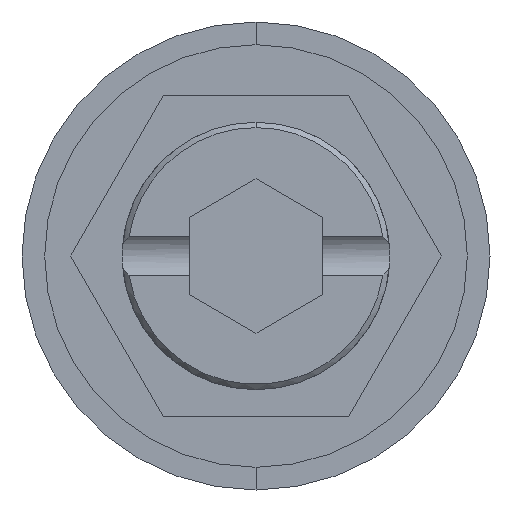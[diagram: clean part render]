
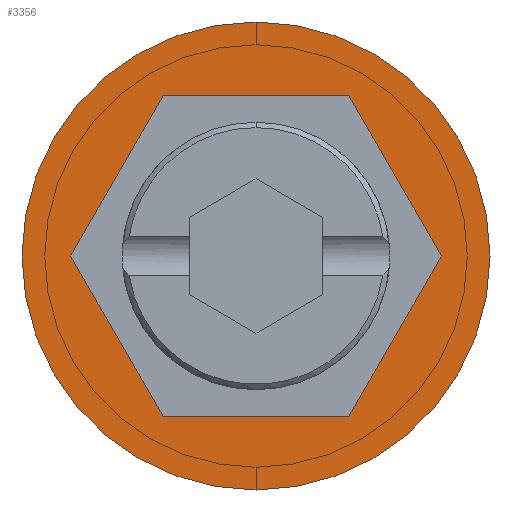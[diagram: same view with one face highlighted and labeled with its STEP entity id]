
A CAD part, front view. The second image highlights one B-rep face of the part: STEP entity #3356.
In plain terms, the highlighted planar face has unit normal (0, -1, 0).
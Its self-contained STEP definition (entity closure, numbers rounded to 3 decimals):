
#35 = DIRECTION ( 'NONE',  ( 0., 0., -1. ) ) ;
#142 = EDGE_CURVE ( 'NONE', #1620, #3146, #1400, .T. ) ;
#198 = LINE ( 'NONE', #4616, #1505 ) ;
#316 = VECTOR ( 'NONE', #2369, 1000. ) ;
#370 = CARTESIAN_POINT ( 'NONE',  ( -3.464, 0., -6. ) ) ;
#382 = DIRECTION ( 'NONE',  ( -0.5, 0., 0.866 ) ) ;
#622 = FACE_OUTER_BOUND ( 'NONE', #2159, .T. ) ;
#697 = LINE ( 'NONE', #1220, #1821 ) ;
#786 = ORIENTED_EDGE ( 'NONE', *, *, #1713, .F. ) ;
#827 = VECTOR ( 'NONE', #2898, 1000. ) ;
#883 = PLANE ( 'NONE',  #2587 ) ;
#970 = CARTESIAN_POINT ( 'NONE',  ( 0., 0., 8.75 ) ) ;
#1113 = CARTESIAN_POINT ( 'NONE',  ( 3.464, 0., -6. ) ) ;
#1123 = ORIENTED_EDGE ( 'NONE', *, *, #4736, .T. ) ;
#1175 = CARTESIAN_POINT ( 'NONE',  ( -6.928, 0., 0. ) ) ;
#1194 = AXIS2_PLACEMENT_3D ( 'NONE', #4945, #2578, #35 ) ;
#1220 = CARTESIAN_POINT ( 'NONE',  ( -6.928, 0., 0. ) ) ;
#1254 = ORIENTED_EDGE ( 'NONE', *, *, #142, .F. ) ;
#1338 = DIRECTION ( 'NONE',  ( 0., -1., 0. ) ) ;
#1339 = ORIENTED_EDGE ( 'NONE', *, *, #3307, .T. ) ;
#1400 = LINE ( 'NONE', #1425, #316 ) ;
#1425 = CARTESIAN_POINT ( 'NONE',  ( 3.464, 0., 6. ) ) ;
#1450 = AXIS2_PLACEMENT_3D ( 'NONE', #1835, #4649, #2261 ) ;
#1505 = VECTOR ( 'NONE', #2226, 1000. ) ;
#1617 = ORIENTED_EDGE ( 'NONE', *, *, #4601, .F. ) ;
#1620 = VERTEX_POINT ( 'NONE', #3696 ) ;
#1678 = EDGE_CURVE ( 'NONE', #3952, #4049, #697, .T. ) ;
#1713 = EDGE_CURVE ( 'NONE', #4049, #3805, #2800, .T. ) ;
#1821 = VECTOR ( 'NONE', #3713, 1000. ) ;
#1835 = CARTESIAN_POINT ( 'NONE',  ( 0., 0., 0. ) ) ;
#1866 = CARTESIAN_POINT ( 'NONE',  ( -3.464, 0., 6. ) ) ;
#1868 = CIRCLE ( 'NONE', #1194, 8.75 ) ;
#1914 = ORIENTED_EDGE ( 'NONE', *, *, #2996, .F. ) ;
#1975 = EDGE_LOOP ( 'NONE', ( #786, #3010, #5184, #1254, #1914, #1617 ) ) ;
#2159 = EDGE_LOOP ( 'NONE', ( #1123, #1339 ) ) ;
#2226 = DIRECTION ( 'NONE',  ( 0.5, 0., 0.866 ) ) ;
#2240 = VERTEX_POINT ( 'NONE', #3068 ) ;
#2261 = DIRECTION ( 'NONE',  ( 0., 0., -1. ) ) ;
#2369 = DIRECTION ( 'NONE',  ( -1., 0., 0. ) ) ;
#2578 = DIRECTION ( 'NONE',  ( 0., -1., 0. ) ) ;
#2587 = AXIS2_PLACEMENT_3D ( 'NONE', #3814, #1338, #4185 ) ;
#2663 = LINE ( 'NONE', #2908, #4519 ) ;
#2800 = LINE ( 'NONE', #370, #827 ) ;
#2898 = DIRECTION ( 'NONE',  ( 1., 0., 0. ) ) ;
#2908 = CARTESIAN_POINT ( 'NONE',  ( 6.928, 0., 0. ) ) ;
#2920 = VECTOR ( 'NONE', #4684, 1000. ) ;
#2944 = CARTESIAN_POINT ( 'NONE',  ( -3.464, 0., 6. ) ) ;
#2996 = EDGE_CURVE ( 'NONE', #3527, #1620, #2663, .T. ) ;
#3010 = ORIENTED_EDGE ( 'NONE', *, *, #1678, .F. ) ;
#3045 = LINE ( 'NONE', #1866, #2920 ) ;
#3068 = CARTESIAN_POINT ( 'NONE',  ( 0., 0., -8.75 ) ) ;
#3103 = FACE_BOUND ( 'NONE', #1975, .T. ) ;
#3146 = VERTEX_POINT ( 'NONE', #2944 ) ;
#3296 = CIRCLE ( 'NONE', #1450, 8.75 ) ;
#3307 = EDGE_CURVE ( 'NONE', #4665, #2240, #1868, .T. ) ;
#3356 = ADVANCED_FACE ( 'NONE', ( #3103, #622 ), #883, .T. ) ;
#3527 = VERTEX_POINT ( 'NONE', #3539 ) ;
#3539 = CARTESIAN_POINT ( 'NONE',  ( 6.928, 0., 0. ) ) ;
#3696 = CARTESIAN_POINT ( 'NONE',  ( 3.464, 0., 6. ) ) ;
#3713 = DIRECTION ( 'NONE',  ( 0.5, 0., -0.866 ) ) ;
#3805 = VERTEX_POINT ( 'NONE', #1113 ) ;
#3814 = CARTESIAN_POINT ( 'NONE',  ( 0., 0., 0. ) ) ;
#3952 = VERTEX_POINT ( 'NONE', #1175 ) ;
#4049 = VERTEX_POINT ( 'NONE', #4809 ) ;
#4185 = DIRECTION ( 'NONE',  ( 0., 0., -1. ) ) ;
#4519 = VECTOR ( 'NONE', #382, 1000. ) ;
#4601 = EDGE_CURVE ( 'NONE', #3805, #3527, #198, .T. ) ;
#4616 = CARTESIAN_POINT ( 'NONE',  ( 3.464, 0., -6. ) ) ;
#4649 = DIRECTION ( 'NONE',  ( 0., -1., 0. ) ) ;
#4665 = VERTEX_POINT ( 'NONE', #970 ) ;
#4684 = DIRECTION ( 'NONE',  ( -0.5, 0., -0.866 ) ) ;
#4736 = EDGE_CURVE ( 'NONE', #2240, #4665, #3296, .T. ) ;
#4809 = CARTESIAN_POINT ( 'NONE',  ( -3.464, 0., -6. ) ) ;
#4901 = EDGE_CURVE ( 'NONE', #3146, #3952, #3045, .T. ) ;
#4945 = CARTESIAN_POINT ( 'NONE',  ( 0., 0., 0. ) ) ;
#5184 = ORIENTED_EDGE ( 'NONE', *, *, #4901, .F. ) ;
